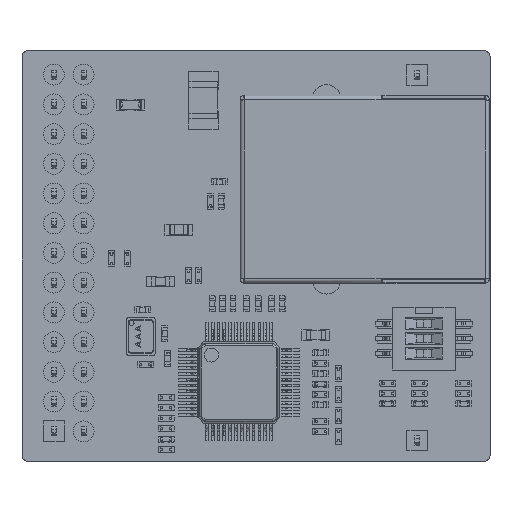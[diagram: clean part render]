
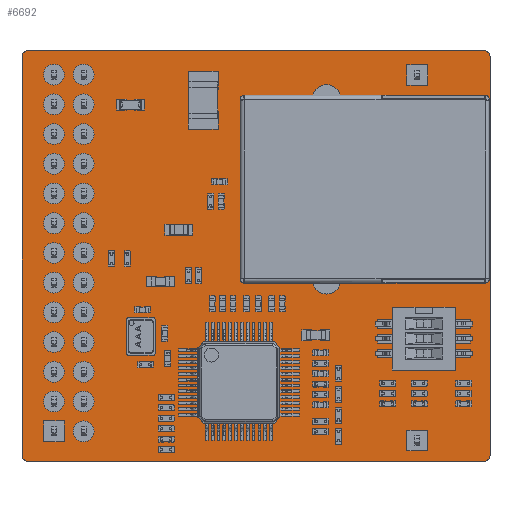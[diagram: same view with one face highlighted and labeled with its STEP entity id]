
A CAD part, top view. The second image highlights one B-rep face of the part: STEP entity #6692.
In plain terms, the highlighted planar face has unit normal (0, 0, 1).
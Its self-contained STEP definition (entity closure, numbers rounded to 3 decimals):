
#5800 = CARTESIAN_POINT ( 'NONE',  ( 40., 34.6, 0.865 ) ) ;
#6692 = ADVANCED_FACE ( 'NONE', ( #37842 ), #140162, .T. ) ;
#7478 = CARTESIAN_POINT ( 'NONE',  ( 40., 17.55, 0.865 ) ) ;
#8044 = CIRCLE ( 'NONE', #82512, 0.5 ) ;
#8326 = ORIENTED_EDGE ( 'NONE', *, *, #94865, .T. ) ;
#9906 = CIRCLE ( 'NONE', #129530, 0.5 ) ;
#17822 = LINE ( 'NONE', #117739, #138030 ) ;
#19129 = CARTESIAN_POINT ( 'NONE',  ( 39.5, 35.1, 0.865 ) ) ;
#22390 = DIRECTION ( 'NONE',  ( -1., 0., 0. ) ) ;
#23392 = AXIS2_PLACEMENT_3D ( 'NONE', #100438, #90446, #163702 ) ;
#24056 = CARTESIAN_POINT ( 'NONE',  ( 39.5, 0.5, 0.865 ) ) ;
#27138 = VECTOR ( 'NONE', #73597, 1000. ) ;
#30273 = ORIENTED_EDGE ( 'NONE', *, *, #86108, .T. ) ;
#37842 = FACE_OUTER_BOUND ( 'NONE', #63432, .T. ) ;
#43089 = VERTEX_POINT ( 'NONE', #5800 ) ;
#45490 = VERTEX_POINT ( 'NONE', #56627 ) ;
#47074 = AXIS2_PLACEMENT_3D ( 'NONE', #94344, #82722, #158361 ) ;
#50096 = CARTESIAN_POINT ( 'NONE',  ( 39.5, 0., 0.865 ) ) ;
#56627 = CARTESIAN_POINT ( 'NONE',  ( 0.5, 0., 0.865 ) ) ;
#61094 = CARTESIAN_POINT ( 'NONE',  ( 20., 0., 0.865 ) ) ;
#62198 = VERTEX_POINT ( 'NONE', #162418 ) ;
#63432 = EDGE_LOOP ( 'NONE', ( #96777, #141967, #97317, #139233, #81290, #8326, #30273, #152437 ) ) ;
#70081 = CIRCLE ( 'NONE', #139174, 0.5 ) ;
#73597 = DIRECTION ( 'NONE',  ( 1., 0., 0. ) ) ;
#74480 = EDGE_CURVE ( 'NONE', #62198, #92406, #9906, .T. ) ;
#78276 = VECTOR ( 'NONE', #96533, 1000. ) ;
#78669 = DIRECTION ( 'NONE',  ( 0., -1., 0. ) ) ;
#80218 = CARTESIAN_POINT ( 'NONE',  ( 39.5, 34.6, 0.865 ) ) ;
#81290 = ORIENTED_EDGE ( 'NONE', *, *, #122495, .T. ) ;
#81362 = CARTESIAN_POINT ( 'NONE',  ( 0.5, 34.6, 0.865 ) ) ;
#82512 = AXIS2_PLACEMENT_3D ( 'NONE', #80218, #129370, #130999 ) ;
#82722 = DIRECTION ( 'NONE',  ( 0., 0., 1. ) ) ;
#85651 = LINE ( 'NONE', #136438, #90632 ) ;
#86108 = EDGE_CURVE ( 'NONE', #127840, #43089, #95740, .T. ) ;
#90446 = DIRECTION ( 'NONE',  ( 0., 0., 1. ) ) ;
#90632 = VECTOR ( 'NONE', #22390, 1000. ) ;
#92406 = VERTEX_POINT ( 'NONE', #111283 ) ;
#94344 = CARTESIAN_POINT ( 'NONE',  ( 20., 17.55, 0.865 ) ) ;
#94865 = EDGE_CURVE ( 'NONE', #121196, #127840, #70081, .T. ) ;
#95740 = LINE ( 'NONE', #7478, #78276 ) ;
#96533 = DIRECTION ( 'NONE',  ( 0., 1., 0. ) ) ;
#96777 = ORIENTED_EDGE ( 'NONE', *, *, #153503, .T. ) ;
#97317 = ORIENTED_EDGE ( 'NONE', *, *, #152795, .T. ) ;
#100438 = CARTESIAN_POINT ( 'NONE',  ( 0.5, 0.5, 0.865 ) ) ;
#101637 = EDGE_CURVE ( 'NONE', #43089, #131463, #8044, .T. ) ;
#107903 = DIRECTION ( 'NONE',  ( 0., 0., 1. ) ) ;
#109463 = CARTESIAN_POINT ( 'NONE',  ( 0., 0.5, 0.865 ) ) ;
#111283 = CARTESIAN_POINT ( 'NONE',  ( 0., 34.6, 0.865 ) ) ;
#113892 = DIRECTION ( 'NONE',  ( 0., -1., 0. ) ) ;
#114721 = DIRECTION ( 'NONE',  ( 0., 0., 1. ) ) ;
#116806 = VERTEX_POINT ( 'NONE', #109463 ) ;
#117739 = CARTESIAN_POINT ( 'NONE',  ( 0., 17.55, 0.865 ) ) ;
#121196 = VERTEX_POINT ( 'NONE', #50096 ) ;
#121299 = DIRECTION ( 'NONE',  ( 0., -1., 0. ) ) ;
#122495 = EDGE_CURVE ( 'NONE', #45490, #121196, #126027, .T. ) ;
#126027 = LINE ( 'NONE', #61094, #27138 ) ;
#127840 = VERTEX_POINT ( 'NONE', #137395 ) ;
#129370 = DIRECTION ( 'NONE',  ( 0., 0., 1. ) ) ;
#129530 = AXIS2_PLACEMENT_3D ( 'NONE', #81362, #107903, #121299 ) ;
#130999 = DIRECTION ( 'NONE',  ( 0., -1., 0. ) ) ;
#131463 = VERTEX_POINT ( 'NONE', #19129 ) ;
#136438 = CARTESIAN_POINT ( 'NONE',  ( 20., 35.1, 0.865 ) ) ;
#137395 = CARTESIAN_POINT ( 'NONE',  ( 40., 0.5, 0.865 ) ) ;
#138030 = VECTOR ( 'NONE', #78669, 1000. ) ;
#139174 = AXIS2_PLACEMENT_3D ( 'NONE', #24056, #114721, #113892 ) ;
#139233 = ORIENTED_EDGE ( 'NONE', *, *, #151316, .T. ) ;
#140162 = PLANE ( 'NONE',  #47074 ) ;
#141967 = ORIENTED_EDGE ( 'NONE', *, *, #74480, .T. ) ;
#151316 = EDGE_CURVE ( 'NONE', #116806, #45490, #161656, .T. ) ;
#152437 = ORIENTED_EDGE ( 'NONE', *, *, #101637, .T. ) ;
#152795 = EDGE_CURVE ( 'NONE', #92406, #116806, #17822, .T. ) ;
#153503 = EDGE_CURVE ( 'NONE', #131463, #62198, #85651, .T. ) ;
#158361 = DIRECTION ( 'NONE',  ( 0., -1., 0. ) ) ;
#161656 = CIRCLE ( 'NONE', #23392, 0.5 ) ;
#162418 = CARTESIAN_POINT ( 'NONE',  ( 0.5, 35.1, 0.865 ) ) ;
#163702 = DIRECTION ( 'NONE',  ( 0., -1., 0. ) ) ;
